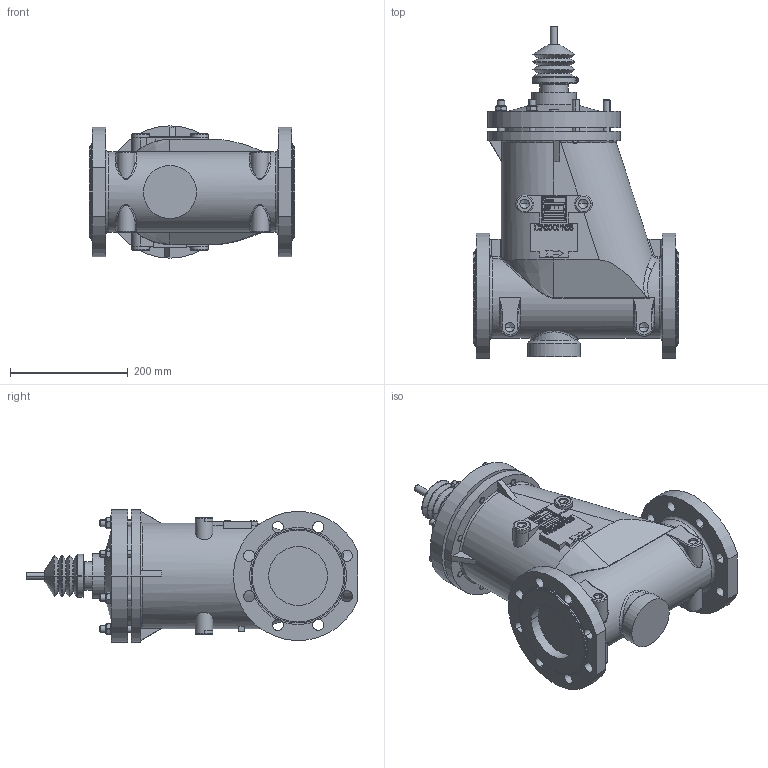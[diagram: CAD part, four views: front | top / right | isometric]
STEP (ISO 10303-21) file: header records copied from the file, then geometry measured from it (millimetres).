
FILE_DESCRIPTION((''),'2;1');
FILE_NAME('9560-00-5008_A_SW0001','2014-07-02T',('mclefen'),(''),'PRO/ENGINEER BY PARAMETRIC TECHNOLOGY CORPORATION, 2011040','PRO/ENGINEER BY PARAMETRIC TECHNOLOGY CORPORATION, 2011040','');
FILE_SCHEMA(('CONFIG_CONTROL_DESIGN'));
Products named in the file (1): 9560-00-5008_A_SW0001
Bounding box: 350 x 565 x 225 mm (x, y, z)
Volume: 15435436.9 mm3; surface area: 724278.9 mm2
Topology: 2 solids, 4 shells, 2774 faces, 7678 edges, 5036 vertices
Faces by surface type: plane 2298, cylinder 266, cone 102, torus 63, bspline 39, sphere 6
Entity records: 93906 total; most frequent: CARTESIAN_POINT 22784, ORIENTED_EDGE 15316, DIRECTION 13738, EDGE_CURVE 7658, VECTOR 6612, LINE 6612, VERTEX_POINT 5036, AXIS2_PLACEMENT_3D 3563
